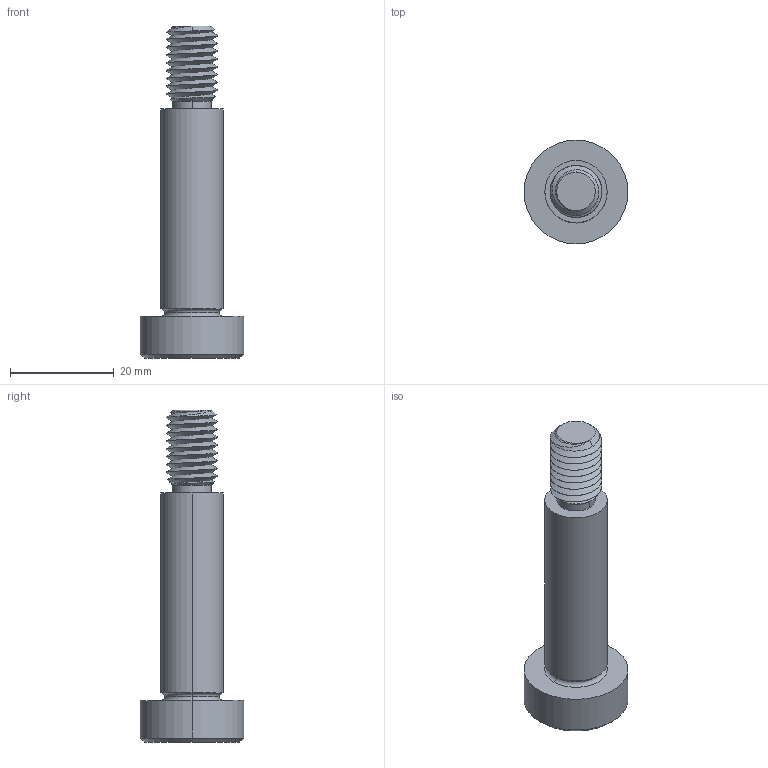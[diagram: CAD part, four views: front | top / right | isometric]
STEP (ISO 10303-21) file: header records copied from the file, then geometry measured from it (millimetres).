
FILE_DESCRIPTION (( 'STEP AP203' ), '1' );
FILE_NAME ('P0130.120-040-B2.step', '2021-11-09T22:06:27', ( '' ), ( '' ), 'SwSTEP 2.0', 'SolidWorks 2019', '' );
FILE_SCHEMA (( 'CONFIG_CONTROL_DESIGN' ));
Length unit declared in the file: millimetre
Products named in the file (1): P0130.120-040-B2
Bounding box: 20 x 20 x 64 mm (x, y, z)
Volume: 7700.6 mm3; surface area: 3565.2 mm2
Topology: 1 solids, 1 shells, 60 faces, 142 edges, 85 vertices
Faces by surface type: cylinder 23, plane 16, cone 15, torus 4, bspline 2
Entity records: 3534 total; most frequent: CARTESIAN_POINT 2187, ORIENTED_EDGE 280, DIRECTION 247, EDGE_CURVE 140, AXIS2_PLACEMENT_3D 99, VERTEX_POINT 85, EDGE_LOOP 63, ADVANCED_FACE 60
